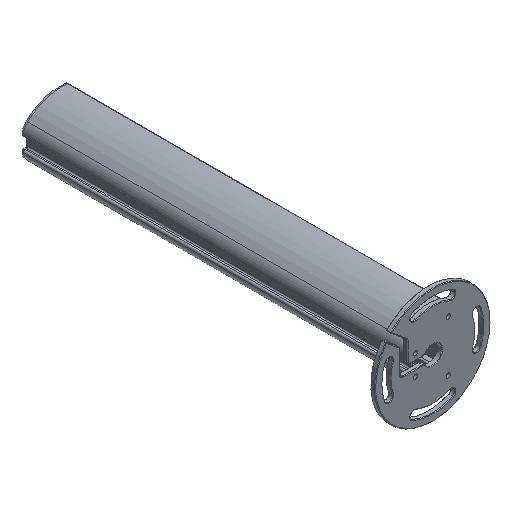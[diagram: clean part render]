
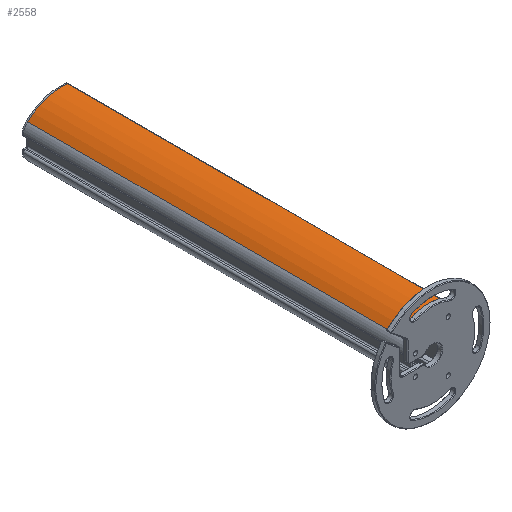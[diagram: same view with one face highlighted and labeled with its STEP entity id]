
A CAD part, isometric view. The second image highlights one B-rep face of the part: STEP entity #2558.
In plain terms, the highlighted cylindrical face has radius 79.059 mm (diameter 158.118 mm), a partial arc.
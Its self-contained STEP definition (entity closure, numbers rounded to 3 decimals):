
#72=CARTESIAN_POINT('',(24.886,-315.,-29.268));
#73=DIRECTION('',(0.,1.,0.));
#74=DIRECTION('',(-0.694,0.,0.72));
#75=AXIS2_PLACEMENT_3D('',#72,#73,#74);
#646=DIRECTION('',(0.,1.,0.));
#647=VECTOR('',#646,630.);
#648=CARTESIAN_POINT('',(35.448,-315.,49.083));
#649=LINE('',#648,#647);
#650=DIRECTION('',(0.,1.,0.));
#651=VECTOR('',#650,630.);
#652=CARTESIAN_POINT('',(-30.018,-315.,27.617));
#653=LINE('',#652,#651);
#1015=CARTESIAN_POINT('',(24.886,315.,-29.268));
#1016=DIRECTION('',(0.,1.,0.));
#1017=DIRECTION('',(-0.694,0.,0.72));
#1018=AXIS2_PLACEMENT_3D('',#1015,#1016,#1017);
#1116=CARTESIAN_POINT('',(-30.018,-315.,27.617));
#1117=VERTEX_POINT('',#1116);
#1118=CARTESIAN_POINT('',(35.448,-315.,49.083));
#1119=VERTEX_POINT('',#1118);
#1282=CARTESIAN_POINT('',(-30.018,315.,27.617));
#1283=VERTEX_POINT('',#1282);
#1284=CARTESIAN_POINT('',(35.448,315.,49.083));
#1285=VERTEX_POINT('',#1284);
#2545=CARTESIAN_POINT('',(24.886,-315.,-29.268));
#2546=DIRECTION('',(0.,1.,0.));
#2547=DIRECTION('',(1.,0.,0.));
#2548=AXIS2_PLACEMENT_3D('',#2545,#2546,#2547);
#2549=CYLINDRICAL_SURFACE('',#2548,79.059);
#2550=ORIENTED_EDGE('',*,*,#1453,.F.);
#2552=ORIENTED_EDGE('',*,*,#2551,.T.);
#2554=ORIENTED_EDGE('',*,*,#2553,.T.);
#2555=ORIENTED_EDGE('',*,*,#2537,.F.);
#2556=EDGE_LOOP('',(#2550,#2552,#2554,#2555));
#2557=FACE_OUTER_BOUND('',#2556,.F.);
#2558=ADVANCED_FACE('',(#2557),#2549,.T.);
#76=CIRCLE('',#75,79.059);
#1019=CIRCLE('',#1018,79.059);
#1453=EDGE_CURVE('',#1117,#1119,#76,.T.);
#2537=EDGE_CURVE('',#1119,#1285,#649,.T.);
#2551=EDGE_CURVE('',#1117,#1283,#653,.T.);
#2553=EDGE_CURVE('',#1283,#1285,#1019,.T.);
